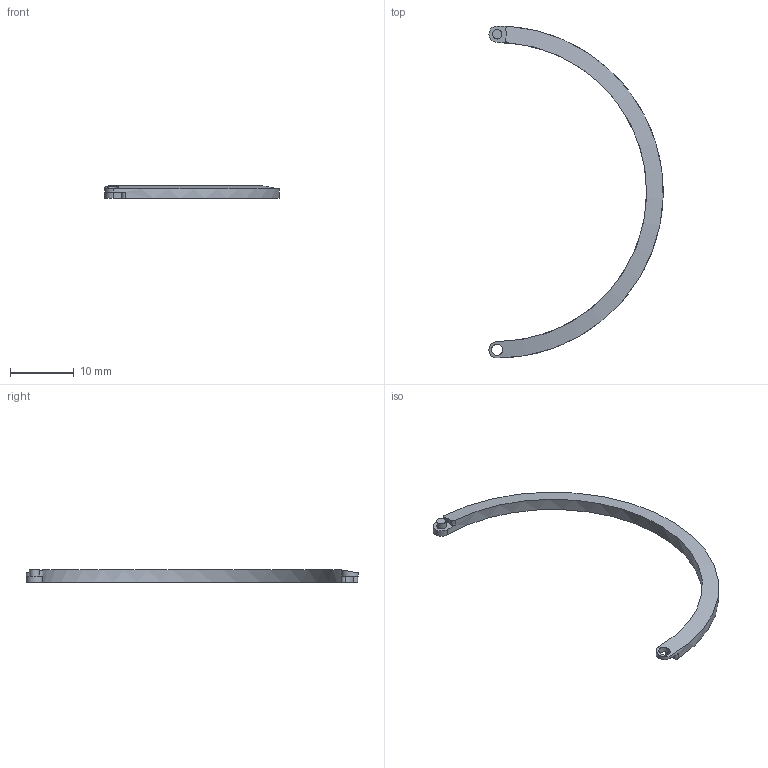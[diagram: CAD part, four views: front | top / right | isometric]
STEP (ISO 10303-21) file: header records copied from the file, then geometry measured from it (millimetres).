
FILE_DESCRIPTION(/* description */ (''),/* implementation_level */ '2;1');
FILE_NAME(/* name */ 'Hip Pulley Spacer Rev 2 v1.step',/* time_stamp */ '2025-10-21T12:09:16-07:00',/* author */ (''),/* organization */ (''),/* preprocessor_version */ 'ST-DEVELOPER v20.1',/* originating_system */ 'Autodesk Translation Framework v14.17.0.0',/* authorisation */ '');
FILE_SCHEMA (('AUTOMOTIVE_DESIGN { 1 0 10303 214 3 1 1 }'));
Length unit declared in the file: millimetre
Products named in the file (1): Hip Pulley Spacer Rev 2
Bounding box: 27.27 x 52 x 2 mm (x, y, z)
Volume: 342.7 mm3; surface area: 689.8 mm2
Topology: 1 solids, 1 shells, 17 faces, 43 edges, 29 vertices
Faces by surface type: cylinder 12, plane 4, cone 1
Full cylindrical faces by diameter (mm): 1.5 x1, 1.75 x1
Entity records: 644 total; most frequent: CARTESIAN_POINT 181, DIRECTION 96, ORIENTED_EDGE 86, EDGE_CURVE 43, AXIS2_PLACEMENT_3D 41, VERTEX_POINT 29, CIRCLE 23, EDGE_LOOP 20
